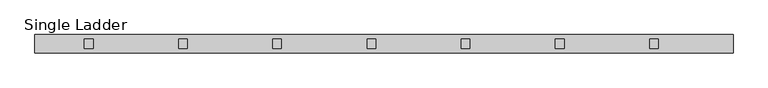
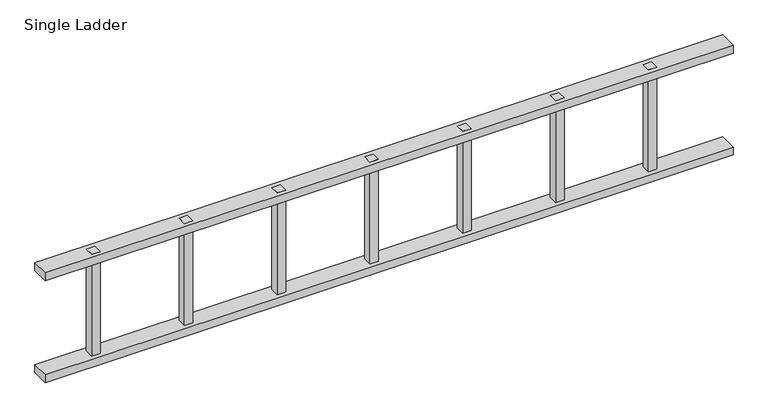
"""IFC4 building model written with IfcOpenShell, lengths in millimetres: proxy geometry, Echelle : Single Ladder."""

from ifc_helpers import new_model, si_unit, frame, origin, origin_with_axes, place, context, project, spatial, polyline, outline, extrude, source, transform, mapped, element, save


def single_ladder_20e57597(model_context):
    return source(origin(), model_context, "Body", "SweptSolid", [
        extrude(outline(polyline([(1852.75, 14.0), (1852.75, -14.0), (1827.25, -14.0), (1827.25, 14.0), (1852.75, 14.0)])), origin_with_axes(), (0.0, 0.0, 1.0), 350.0),
        extrude(outline(polyline([(1572.75, 14.0), (1572.75, -14.0), (1547.25, -14.0), (1547.25, 14.0), (1572.75, 14.0)])), origin_with_axes(), (0.0, 0.0, 1.0), 350.0),
        extrude(outline(polyline([(1292.75, 14.0), (1292.75, -14.0), (1267.25, -14.0), (1267.25, 14.0), (1292.75, 14.0)])), origin_with_axes(), (0.0, 0.0, 1.0), 350.0),
        extrude(outline(polyline([(1012.75, 14.0), (1012.75, -14.0), (987.25, -14.0), (987.25, 14.0), (1012.75, 14.0)])), origin_with_axes(), (0.0, 0.0, 1.0), 350.0),
        extrude(outline(polyline([(732.75, 14.0), (732.75, -14.0), (707.25, -14.0), (707.25, 14.0), (732.75, 14.0)])), origin_with_axes(), (0.0, 0.0, 1.0), 350.0),
        extrude(outline(polyline([(452.75, 14.0), (452.75, -14.0), (427.25, -14.0), (427.25, 14.0), (452.75, 14.0)])), origin_with_axes(), (0.0, 0.0, 1.0), 350.0),
        extrude(outline(polyline([(172.75, 14.0), (172.75, -14.0), (147.25, -14.0), (147.25, 14.0), (172.75, 14.0)])), origin_with_axes(), (0.0, 0.0, 1.0), 350.0),
        extrude(outline(polyline([(2075.2490614, 27.0), (2075.2490614, -27.0), (0.0, -27.0), (0.0, 27.0), (2075.2490614, 27.0)])), frame((0.0, 0.0, 325.0), z_axis=(0.0, 0.0, 1.0), x_axis=(1.0, 0.0, 0.0)), (0.0, 0.0, 1.0), 25.0),
        extrude(outline(polyline([(2075.2490614, 27.0), (2075.2490614, -27.0), (0.0, -27.0), (0.0, 27.0), (2075.2490614, 27.0)])), origin_with_axes(), (0.0, 0.0, 1.0), 25.0),
    ])


if __name__ == "__main__":
    model = new_model("IFC4")
    model_context = context("Model", 3, world=origin())
    ifc_project = project(units=[si_unit("LENGTHUNIT", "METRE", prefix="MILLI")], contexts=[model_context])
    site = spatial("IfcSite", under=ifc_project)
    building = spatial("IfcBuilding", under=site)
    placement = place(None, origin())
    single_ladder_shape = single_ladder_20e57597(model_context)
    element("IfcBuildingElementProxy", 1, Name="Echelle : Single Ladder", ObjectType="Echelle : Single Ladder", at=placement, inside=building, context=model_context, shape_type="MappedRepresentation", body=[
        mapped(single_ladder_shape, transform((0.0, 0.0, 0.0), x_axis=(1.0, 0.0, 0.0), y_axis=(0.0, 1.0, 0.0), z_axis=(0.0, 0.0, 1.0))),
    ])
    save(model, "model.ifc")
